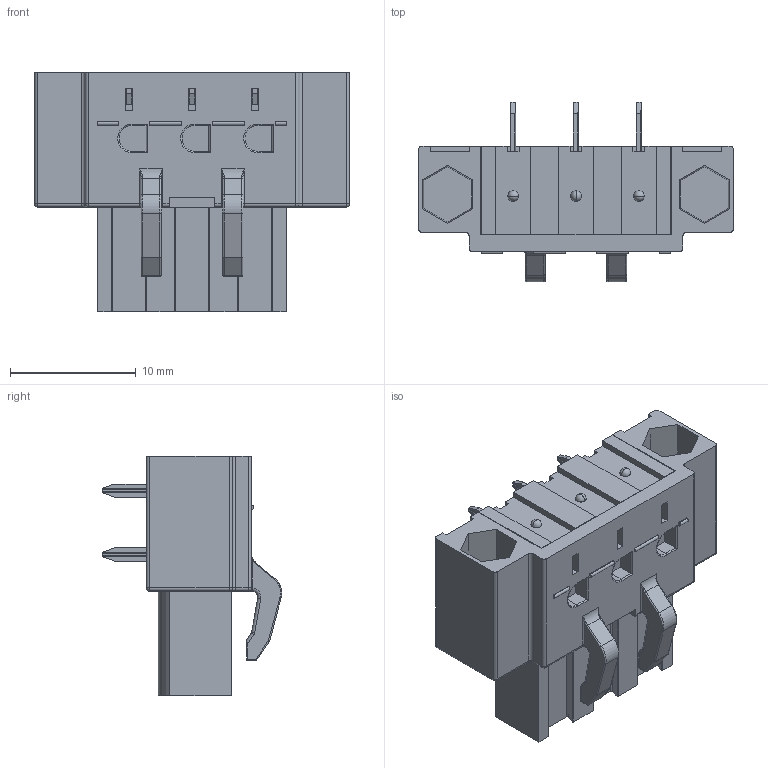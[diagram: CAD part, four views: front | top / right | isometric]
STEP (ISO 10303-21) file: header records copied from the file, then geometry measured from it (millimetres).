
FILE_DESCRIPTION((''),'2;1');
FILE_NAME('33','2019-04-19T',('zhenbing.lai'),(''),'CREO PARAMETRIC BY PTC INC, 2016260','CREO PARAMETRIC BY PTC INC, 2016260','');
FILE_SCHEMA(('CONFIG_CONTROL_DESIGN'));
Length unit declared in the file: millimetre
Products named in the file (1): 33
Bounding box: 25 x 14.26 x 19 mm (x, y, z)
Volume: 2498.8 mm3; surface area: 2002.8 mm2
Topology: 1 solids, 1 shells, 495 faces, 1327 edges, 841 vertices
Faces by surface type: plane 250, cylinder 162, torus 25, bspline 24, sphere 24, cone 10
Entity records: 16162 total; most frequent: CARTESIAN_POINT 3866, ORIENTED_EDGE 2606, DIRECTION 2520, EDGE_CURVE 1303, AXIS2_PLACEMENT_3D 861, VERTEX_POINT 841, VECTOR 798, LINE 798
